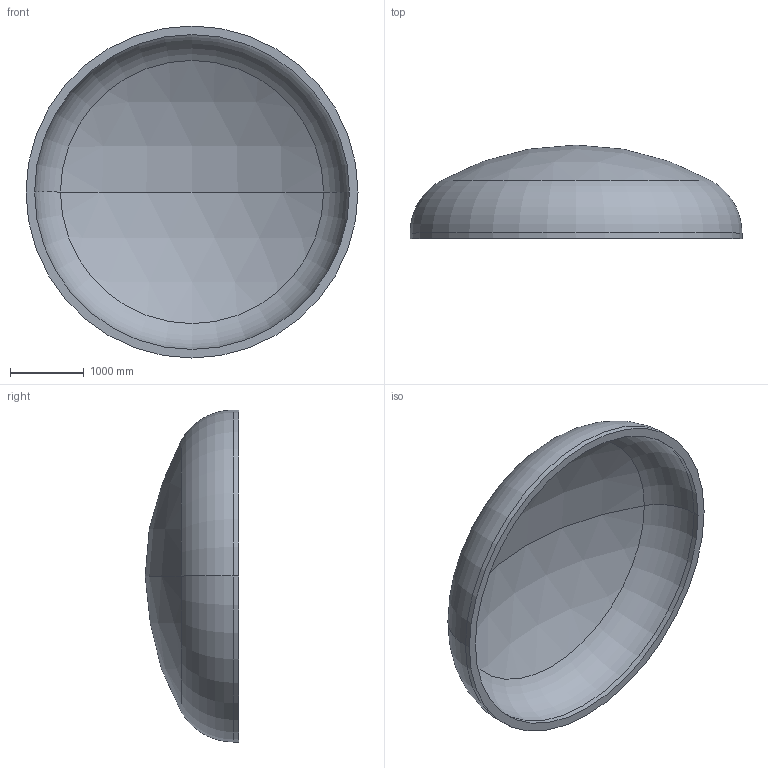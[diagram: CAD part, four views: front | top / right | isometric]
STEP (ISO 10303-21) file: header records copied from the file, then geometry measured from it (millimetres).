
FILE_DESCRIPTION (( 'STEP AP203' ), '1' );
FILE_NAME ('DIN 28013 Korbbogenform_-_Boden DIN 28013 - 4500 x 75 - I - s=116.step', '2016-07-01T23:57:32', ( '' ), ( '' ), 'SwSTEP 2.0', 'SolidWorks 2013', '' );
FILE_SCHEMA (( 'CONFIG_CONTROL_DESIGN' ));
Length unit declared in the file: millimetre
Products named in the file (1): DIN 28013 Korbbogenform_-_Boden DIN 28013 - 4500 x 75 - I - s=116
Bounding box: 4500 x 1267.45 x 4500 mm (x, y, z)
Volume: 2591511502.5 mm3; surface area: 46307037.4 mm2
Topology: 1 solids, 1 shells, 13 faces, 24 edges, 14 vertices
Faces by surface type: torus 4, cylinder 4, sphere 4, plane 1
Entity records: 407 total; most frequent: DIRECTION 72, CARTESIAN_POINT 52, ORIENTED_EDGE 48, AXIS2_PLACEMENT_3D 34, EDGE_CURVE 24, CIRCLE 20, EDGE_LOOP 14, VERTEX_POINT 14
